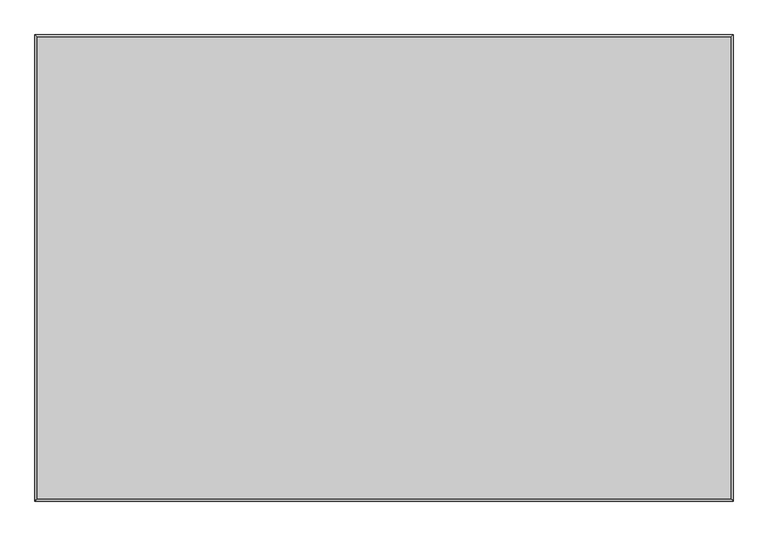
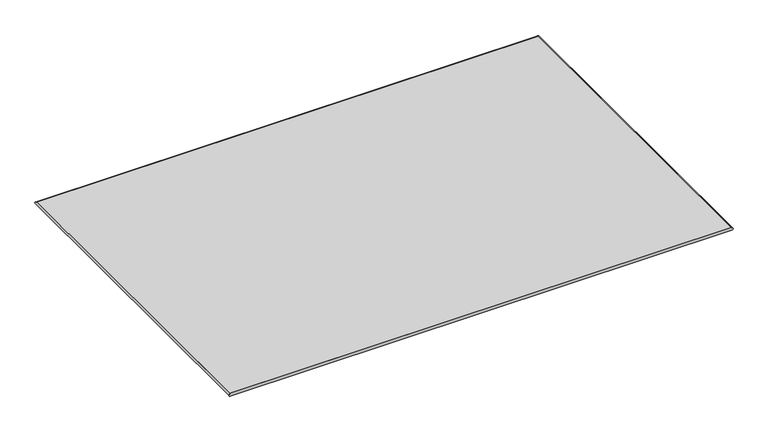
"""IFC4 building model written with IfcOpenShell, lengths in millimetres: furniture geometry, Haworth_GAN_Cord_Rugs : HCGN-COAR-P Area Rug."""

from ifc_helpers import new_model, si_unit, frame, origin, origin_with_axes, place, context, project, spatial, polyline, ellipse_curve, outline, extrude, source, transform, mapped, element, save
from ifc_brep_helpers import plane_surface, cylinder_surface, advanced_brep


def furniture_608d79b6(model_context):
    return source(origin(), model_context, "Body", "SolidModel", [
        advanced_brep(
        [(-299.0453125, 999.2816406, 0.0), (-299.0453125, 999.2816406, 14.9820312), (-299.0453125, -1000.6707031, 14.9820312), (-299.0453125, -1000.6707031, 0.0), (2700.9328125, -1000.6707031, 14.9820312), (2700.9328125, -1000.6707031, 0.0), (2700.9328125, 999.2816406, 14.9820312), (2700.9328125, 999.2816406, 0.0)],
        [
            (0, 1),
            (1, 2),
            (2, 3),
            (3, 0),
            (2, 4),
            (4, 5),
            (5, 3),
            (4, 6),
            (6, 7),
            (7, 5),
            (6, 1),
            (0, 7),
            (1, 0, ellipse_curve(frame((-299.0453125, 999.2816406, 7.4910156), z_axis=(-0.7071067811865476, -0.7071067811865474, 0.0), x_axis=(-0.7071067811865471, 0.7071067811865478, 0.0)), 10.5938959, 7.4910156)),
            (3, 2, ellipse_curve(frame((-299.0453125, -1000.6707031, 7.4910156), z_axis=(-0.7071067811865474, 0.7071067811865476, 0.0), x_axis=(0.7071067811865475, 0.7071067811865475, 0.0)), 10.5938959, 7.4910156)),
            (5, 4, ellipse_curve(frame((2700.9328125, -1000.6707031, 7.4910156), z_axis=(-0.7071067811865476, -0.7071067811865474, 0.0), x_axis=(-0.7071067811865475, 0.7071067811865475, 0.0)), 10.5938959, 7.4910156)),
            (7, 6, ellipse_curve(frame((2700.9328125, 999.2816406, 7.4910156), z_axis=(0.7071067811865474, -0.7071067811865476, 0.0), x_axis=(-0.7071067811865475, -0.7071067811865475, 0.0)), 10.5938959, 7.4910156)),
        ],
        [
            plane_surface(frame((-299.0453125, 999.2816406, 14.9820312), z_axis=(1.0, 0.0, 0.0), x_axis=(0.0, -1.0, 0.0))),
            plane_surface(frame((-299.0453125, -1000.6707031, 14.9820312), z_axis=(0.0, 1.0, 0.0), x_axis=(1.0, 0.0, 0.0))),
            plane_surface(frame((2700.9328125, -1000.6707031, 14.9820312), z_axis=(-1.0, 0.0, 0.0), x_axis=(0.0, 1.0, 0.0))),
            plane_surface(frame((2700.9328125, 999.2816406, 14.9820312), z_axis=(0.0, -1.0, 0.0), x_axis=(-1.0, 0.0, 0.0))),
            cylinder_surface(frame((-299.0453125, 999.2816406, 7.4910156), z_axis=(0.0, 1.0, 0.0), x_axis=(1.0, 0.0, 0.0)), 7.4910156),
            cylinder_surface(frame((-299.0453125, -1000.6707031, 7.4910156), z_axis=(-1.0, 0.0, 0.0), x_axis=(0.0, 1.0, 0.0)), 7.4910156),
            cylinder_surface(frame((2700.9328125, -1000.6707031, 7.4910156), z_axis=(0.0, -1.0, 0.0), x_axis=(-1.0, 0.0, 0.0)), 7.4910156),
            cylinder_surface(frame((2700.9328125, 999.2816406, 7.4910156), z_axis=(1.0, 0.0, 0.0), x_axis=(0.0, -1.0, 0.0)), 7.4910156),
        ],
        [
            (0, [[1, 2, 3, 4]]),
            (1, [[-3, 5, 6, 7]]),
            (2, [[-6, 8, 9, 10]]),
            (3, [[-9, 11, -1, 12]]),
            (4, [[13, -4, 14, -2]]),
            (5, [[-14, -7, 15, -5]]),
            (6, [[-15, -10, 16, -8]]),
            (7, [[-16, -12, -13, -11]]),
        ],
    ),
        extrude(outline(polyline([(2700.9328125, 999.2816406), (2700.9328125, -1000.6707031), (-299.0453125, -1000.6707031), (-299.0453125, 999.2816406), (2700.9328125, 999.2816406)])), origin_with_axes(), (0.0, 0.0, 1.0), 14.9820312),
    ])


if __name__ == "__main__":
    model = new_model("IFC4")
    model_context = context("Model", 3, world=origin())
    ifc_project = project(units=[si_unit("LENGTHUNIT", "METRE", prefix="MILLI")], contexts=[model_context])
    site = spatial("IfcSite", under=ifc_project)
    building = spatial("IfcBuilding", under=site)
    placement = place(None, origin())
    furniture_shape = furniture_608d79b6(model_context)
    element("IfcFurniture", 1, ObjectType="Haworth_GAN_Cord_Rugs : HCGN-COAR-P Area Rug", at=placement, inside=building, context=model_context, shape_type="MappedRepresentation", body=[
        mapped(furniture_shape, transform((0.0, 0.0, 0.0), x_axis=(1.0, 0.0, 0.0), y_axis=(0.0, 1.0, 0.0), z_axis=(0.0, 0.0, 1.0))),
    ])
    save(model, "model.ifc")
